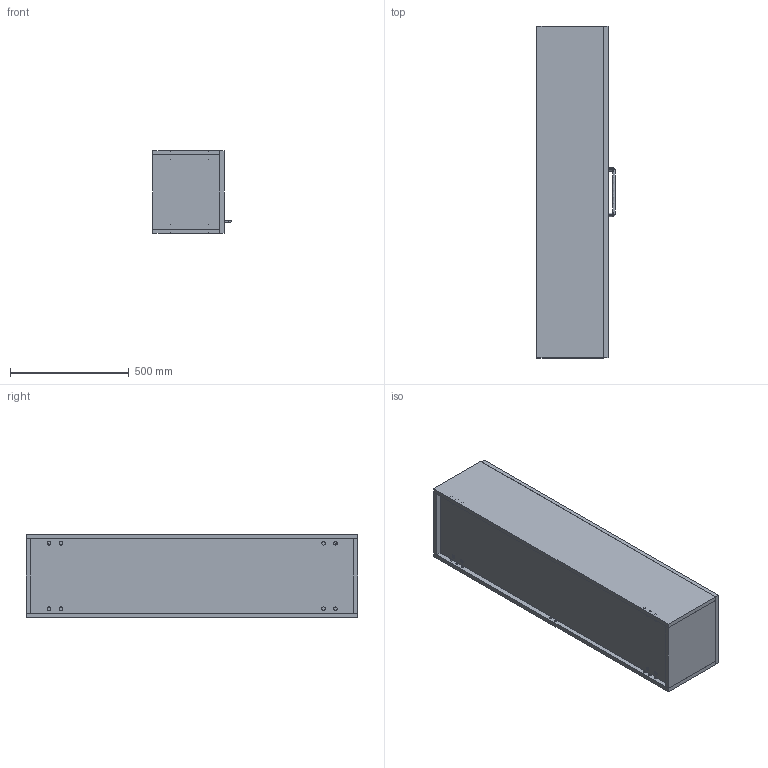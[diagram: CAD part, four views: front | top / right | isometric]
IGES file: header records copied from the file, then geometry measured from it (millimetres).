
Global section: file name: 3D Dosyası,; native system: Autodesk Inventor 2024; preprocessor: unknown; author: pc19; date: 20240628.113744; units: millimetre
Bounding box: 329.5 x 1400 x 350 mm (x, y, z)
Volume: 29279776.9 mm3; surface area: 4774872.9 mm2
Topology: 27 solids, 27 shells, 1278 faces, 3184 edges, 2118 vertices
Faces by surface type: bspline 1278
